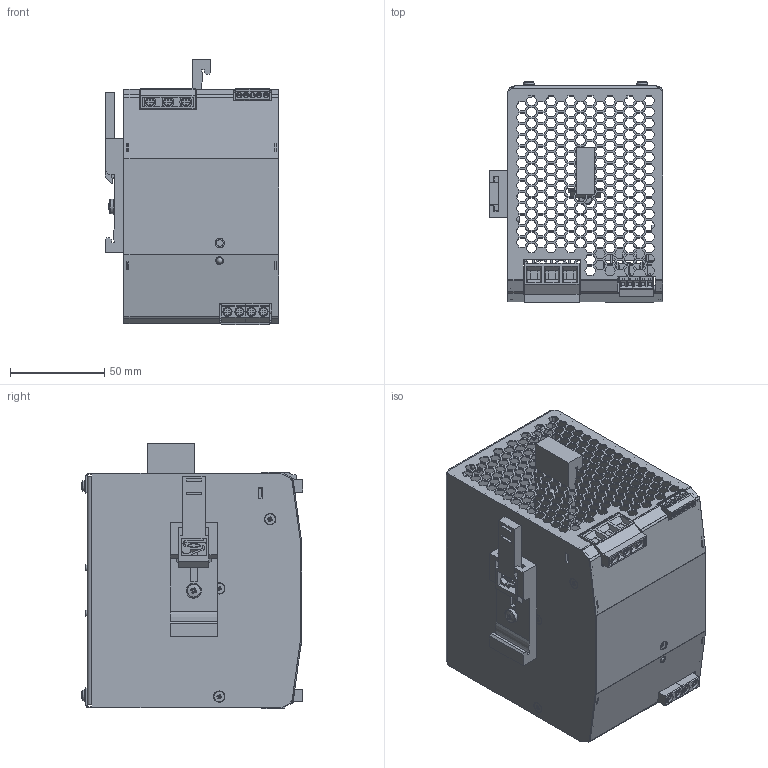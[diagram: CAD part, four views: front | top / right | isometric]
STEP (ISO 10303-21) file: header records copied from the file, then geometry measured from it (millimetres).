
FILE_DESCRIPTION( ( 'Unknown' ), '1' );
FILE_NAME( 'J:/DESBAKUP/3D DATA/TIB/TIB_480/Customer Model/TIB_480_Option.stp', 'Unknown', ( 'Unknown' ), ( 'Unknown' ), 'PSStep 14.0', 'Unknown', ' ' );
FILE_SCHEMA( ( 'AUTOMOTIVE_DESIGN { 1 0 10303 214 1 1 1 1 }' ) );
Length unit declared in the file: millimetre
Products named in the file (20): Assem1; MODULE; DIN_HOOK; DIN_LATCH; SCREW1-oa0
Bounding box: 92 x 117.02 x 140.5 mm (x, y, z)
Volume: 178813.1 mm3; surface area: 261203.2 mm2
Topology: 38 solids, 54 shells, 8434 faces, 25162 edges, 17000 vertices
Faces by surface type: plane 7310, cylinder 506, bspline 360, cone 150, torus 94, sphere 14
Full cylindrical faces by diameter (mm): 0.2 x12, 0.5 x8, 2 x2, 2.65 x10, 2.8 x10, 2.9 x20, 3 x48, 3.005 x8, 3.2 x38, 3.242 x2, 3.5 x10, 4 x8, 4.5 x6, 4.602 x8, 4.749 x8, 4.77 x6, 4.8 x12, 4.901 x8, 4.904 x8, 5 x2, 5.6 x26, 7.35 x2
Entity records: 187147 total; most frequent: CARTESIAN_POINT 42135, ORIENTED_EDGE 24356, DIRECTION 19740, EDGE_CURVE 12178, LINE 10370, VECTOR 10370, VERTEX_POINT 8361, EDGE_LOOP 5475
